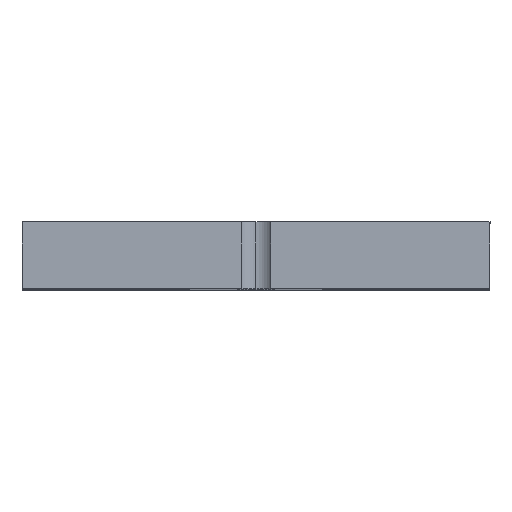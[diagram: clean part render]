
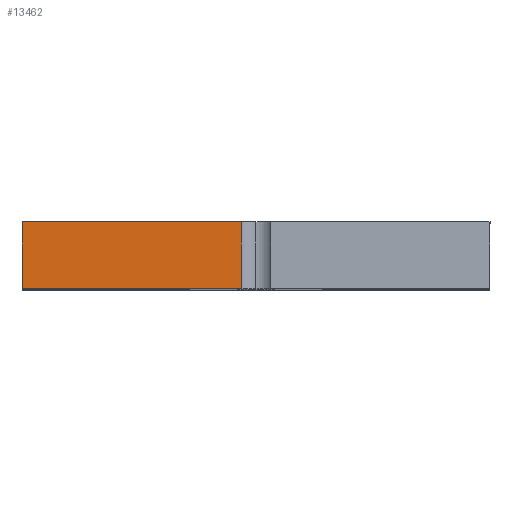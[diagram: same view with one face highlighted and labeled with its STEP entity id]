
A CAD part, top view. The second image highlights one B-rep face of the part: STEP entity #13462.
In plain terms, the highlighted planar face has unit normal (0, 0, 1).
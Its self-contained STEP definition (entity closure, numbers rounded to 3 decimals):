
#419 = VERTEX_POINT ( 'NONE', #9399 ) ;
#839 = CARTESIAN_POINT ( 'NONE',  ( -18.612, 5., 0. ) ) ;
#1681 = DIRECTION ( 'NONE',  ( 0., 0., 1. ) ) ;
#2052 = ORIENTED_EDGE ( 'NONE', *, *, #7845, .T. ) ;
#2063 = VECTOR ( 'NONE', #7065, 1000. ) ;
#2224 = EDGE_CURVE ( 'NONE', #3881, #14104, #2735, .T. ) ;
#2735 = LINE ( 'NONE', #7502, #16712 ) ;
#3096 = DIRECTION ( 'NONE',  ( 0., 1., 0. ) ) ;
#3104 = EDGE_CURVE ( 'NONE', #419, #3881, #7981, .T. ) ;
#3881 = VERTEX_POINT ( 'NONE', #7823 ) ;
#4469 = CARTESIAN_POINT ( 'NONE',  ( -35., 0., 0. ) ) ;
#4561 = DIRECTION ( 'NONE',  ( 1., 0., 0. ) ) ;
#5692 = FACE_OUTER_BOUND ( 'NONE', #6574, .T. ) ;
#6574 = EDGE_LOOP ( 'NONE', ( #2052, #11087, #7368, #13642 ) ) ;
#7065 = DIRECTION ( 'NONE',  ( 0., -1., 0. ) ) ;
#7368 = ORIENTED_EDGE ( 'NONE', *, *, #3104, .T. ) ;
#7502 = CARTESIAN_POINT ( 'NONE',  ( -35., 0., 0. ) ) ;
#7727 = DIRECTION ( 'NONE',  ( 1., 0., 0. ) ) ;
#7823 = CARTESIAN_POINT ( 'NONE',  ( -35., 0., 0. ) ) ;
#7845 = EDGE_CURVE ( 'NONE', #14104, #13216, #16456, .T. ) ;
#7981 = LINE ( 'NONE', #13921, #2063 ) ;
#8155 = LINE ( 'NONE', #11083, #9856 ) ;
#9399 = CARTESIAN_POINT ( 'NONE',  ( -35., 5., 0. ) ) ;
#9856 = VECTOR ( 'NONE', #4561, 1000. ) ;
#11083 = CARTESIAN_POINT ( 'NONE',  ( -31.897, 5., 0. ) ) ;
#11087 = ORIENTED_EDGE ( 'NONE', *, *, #14100, .F. ) ;
#12537 = PLANE ( 'NONE',  #12876 ) ;
#12563 = CARTESIAN_POINT ( 'NONE',  ( -18.612, 0., 0. ) ) ;
#12876 = AXIS2_PLACEMENT_3D ( 'NONE', #4469, #1681, #3096 ) ;
#13216 = VERTEX_POINT ( 'NONE', #839 ) ;
#13462 = ADVANCED_FACE ( 'NONE', ( #5692 ), #12537, .T. ) ;
#13642 = ORIENTED_EDGE ( 'NONE', *, *, #2224, .T. ) ;
#13921 = CARTESIAN_POINT ( 'NONE',  ( -35., 0., 0. ) ) ;
#14100 = EDGE_CURVE ( 'NONE', #419, #13216, #8155, .T. ) ;
#14104 = VERTEX_POINT ( 'NONE', #12563 ) ;
#14380 = DIRECTION ( 'NONE',  ( 0., 1., 0. ) ) ;
#14506 = CARTESIAN_POINT ( 'NONE',  ( -18.612, 0., 0. ) ) ;
#16456 = LINE ( 'NONE', #14506, #16892 ) ;
#16712 = VECTOR ( 'NONE', #7727, 1000. ) ;
#16892 = VECTOR ( 'NONE', #14380, 1000. ) ;
